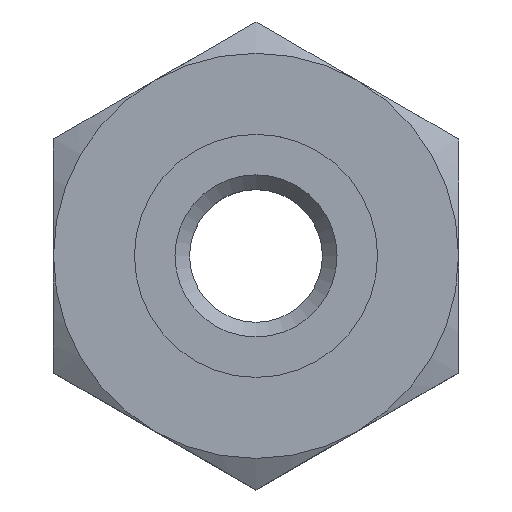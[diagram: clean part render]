
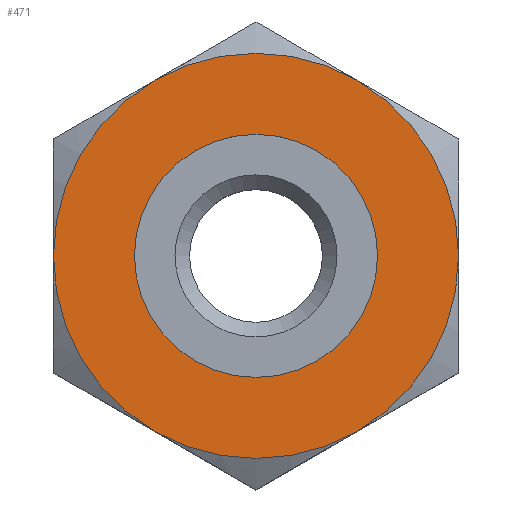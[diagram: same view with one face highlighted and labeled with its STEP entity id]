
A CAD part, top view. The second image highlights one B-rep face of the part: STEP entity #471.
In plain terms, the highlighted planar face has unit normal (0, 0, 1).
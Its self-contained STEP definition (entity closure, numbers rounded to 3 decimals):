
#29=FACE_BOUND('',#105,.T.);
#45=PLANE('',#537);
#75=FACE_OUTER_BOUND('',#104,.T.);
#104=EDGE_LOOP('',(#427,#428,#429,#430,#431,#432));
#105=EDGE_LOOP('',(#433,#434));
#185=CIRCLE('',#503,2.25);
#186=CIRCLE('',#504,2.25);
#189=CIRCLE('',#509,3.75);
#190=CIRCLE('',#511,3.75);
#191=CIRCLE('',#513,3.75);
#192=CIRCLE('',#515,3.75);
#193=CIRCLE('',#517,3.75);
#194=CIRCLE('',#519,3.75);
#204=VERTEX_POINT('',#688);
#205=VERTEX_POINT('',#689);
#208=VERTEX_POINT('',#699);
#210=VERTEX_POINT('',#704);
#212=VERTEX_POINT('',#711);
#213=VERTEX_POINT('',#720);
#216=VERTEX_POINT('',#731);
#217=VERTEX_POINT('',#740);
#249=EDGE_CURVE('',#204,#205,#185,.T.);
#250=EDGE_CURVE('',#205,#204,#186,.T.);
#255=EDGE_CURVE('',#210,#208,#189,.T.);
#259=EDGE_CURVE('',#212,#210,#190,.T.);
#261=EDGE_CURVE('',#208,#213,#191,.T.);
#265=EDGE_CURVE('',#216,#212,#192,.T.);
#267=EDGE_CURVE('',#213,#217,#193,.T.);
#271=EDGE_CURVE('',#217,#216,#194,.T.);
#427=ORIENTED_EDGE('',*,*,#255,.T.);
#428=ORIENTED_EDGE('',*,*,#261,.T.);
#429=ORIENTED_EDGE('',*,*,#267,.T.);
#430=ORIENTED_EDGE('',*,*,#271,.T.);
#431=ORIENTED_EDGE('',*,*,#265,.T.);
#432=ORIENTED_EDGE('',*,*,#259,.T.);
#433=ORIENTED_EDGE('',*,*,#249,.T.);
#434=ORIENTED_EDGE('',*,*,#250,.T.);
#471=ADVANCED_FACE('',(#75,#29),#45,.T.);
#503=AXIS2_PLACEMENT_3D('',#690,#563,#564);
#504=AXIS2_PLACEMENT_3D('',#691,#565,#566);
#509=AXIS2_PLACEMENT_3D('',#705,#576,#577);
#511=AXIS2_PLACEMENT_3D('',#718,#580,#581);
#513=AXIS2_PLACEMENT_3D('',#725,#584,#585);
#515=AXIS2_PLACEMENT_3D('',#738,#588,#589);
#517=AXIS2_PLACEMENT_3D('',#745,#592,#593);
#519=AXIS2_PLACEMENT_3D('',#757,#596,#597);
#537=AXIS2_PLACEMENT_3D('',#827,#664,#665);
#563=DIRECTION('center_axis',(0.,0.,-1.));
#564=DIRECTION('ref_axis',(1.,0.,0.));
#565=DIRECTION('center_axis',(0.,0.,-1.));
#566=DIRECTION('ref_axis',(1.,0.,0.));
#576=DIRECTION('center_axis',(0.,0.,1.));
#577=DIRECTION('ref_axis',(1.,0.,0.));
#580=DIRECTION('center_axis',(0.,0.,1.));
#581=DIRECTION('ref_axis',(1.,0.,0.));
#584=DIRECTION('center_axis',(0.,0.,1.));
#585=DIRECTION('ref_axis',(1.,0.,0.));
#588=DIRECTION('center_axis',(0.,0.,1.));
#589=DIRECTION('ref_axis',(1.,0.,0.));
#592=DIRECTION('center_axis',(0.,0.,1.));
#593=DIRECTION('ref_axis',(1.,0.,0.));
#596=DIRECTION('center_axis',(0.,0.,1.));
#597=DIRECTION('ref_axis',(1.,0.,0.));
#664=DIRECTION('center_axis',(0.,0.,1.));
#665=DIRECTION('ref_axis',(1.,0.,0.));
#688=CARTESIAN_POINT('',(2.25,0.,3.));
#689=CARTESIAN_POINT('',(-2.25,0.,3.));
#690=CARTESIAN_POINT('Origin',(0.,0.,3.));
#691=CARTESIAN_POINT('Origin',(0.,0.,3.));
#699=CARTESIAN_POINT('',(1.875,3.248,3.));
#704=CARTESIAN_POINT('',(3.75,0.,3.));
#705=CARTESIAN_POINT('Origin',(0.,0.,3.));
#711=CARTESIAN_POINT('',(1.875,-3.248,3.));
#718=CARTESIAN_POINT('Origin',(0.,0.,3.));
#720=CARTESIAN_POINT('',(-1.875,3.248,3.));
#725=CARTESIAN_POINT('Origin',(0.,0.,3.));
#731=CARTESIAN_POINT('',(-1.875,-3.248,3.));
#738=CARTESIAN_POINT('Origin',(0.,0.,3.));
#740=CARTESIAN_POINT('',(-3.75,0.,3.));
#745=CARTESIAN_POINT('Origin',(0.,0.,3.));
#757=CARTESIAN_POINT('Origin',(0.,0.,3.));
#827=CARTESIAN_POINT('Origin',(0.,0.,3.));
